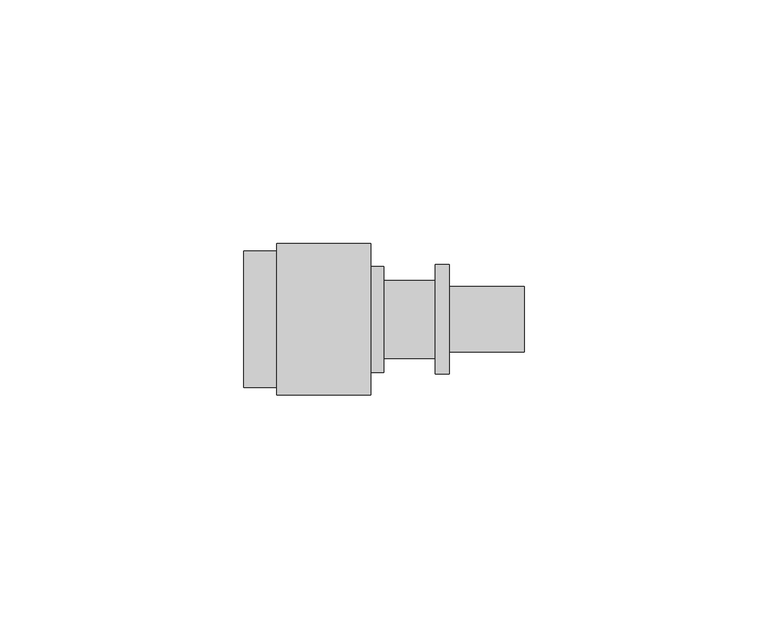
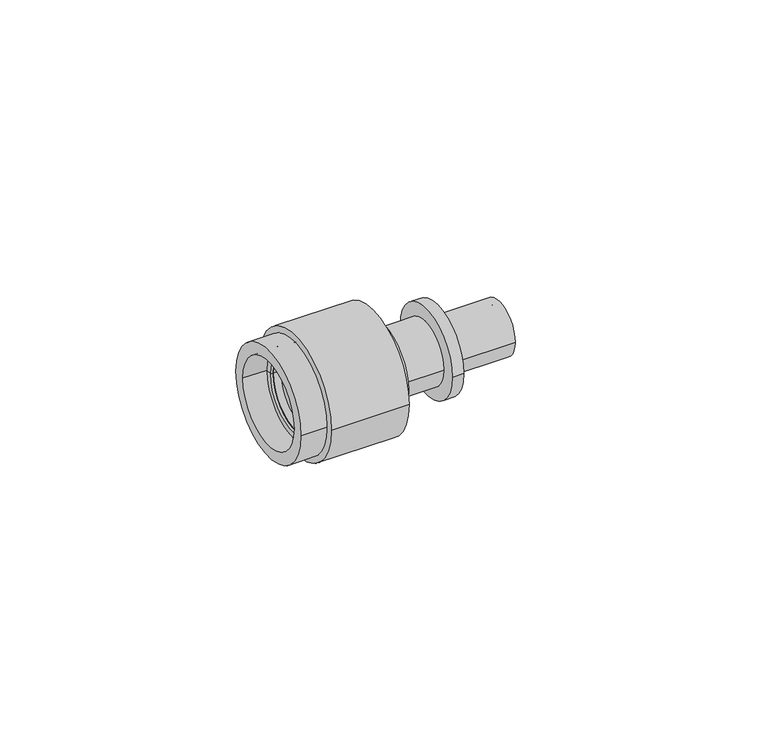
"""IFC4 building model written with IfcOpenShell, lengths in millimetres: pipe fitting geometry, REHAU_RAUTITAN_Adaptor RX+, MeplaFix : REHAU_RAUTITAN_Adaptor RX+, MeplaFix."""

from ifc_helpers import new_model, si_unit, point, frame, origin, origin_2d, place, context, project, spatial, polyline, circle_curve, trimmed, segment, composite_curve, outline, extrude, source, transform, mapped, element, save
from ifc_brep_helpers import plane_surface, cylinder_surface, revolved_surface, advanced_brep


def pipe_fitting_6872f2bf(model_context):
    return source(origin(), model_context, "Body", "SolidModel", [
        advanced_brep(
        [(-7.65, -15.5, 0.0), (-7.65, 15.5, 0.0), (-7.65, 12.7, 0.0), (-7.65, -12.7, 0.0), (-26.95, -15.5, 0.0), (-26.95, 15.5, 0.0), (-26.95, -9.3, 0.0), (-26.95, 9.3, 0.0), (-16.65, -12.7, 0.0), (-16.65, 12.7, 0.0), (-16.65, 10.5, 0.0), (-16.65, -10.5, 0.0), (-18.55, 10.5, 0.0), (-18.55, -10.5, 0.0), (-18.55, 8.7, 0.0), (-18.55, -8.7, 0.0), (-20.05, 8.7, 0.0), (-20.05, -8.7, 0.0), (-20.05, 10.7, 0.0), (-20.05, -10.7, 0.0), (-23.75, 10.7, 0.0), (-23.75, -10.7, 0.0), (-23.75, 9.3, 0.0), (-23.75, -9.3, 0.0)],
        [
            (0, 1, circle_curve(frame((-7.65, 0.0, 0.0), z_axis=(1.0, 0.0, 0.0), x_axis=(0.0, 1.0, 0.0)), 15.5)),
            (1, 0, circle_curve(frame((-7.65, 0.0, 0.0), z_axis=(1.0, 0.0, 0.0), x_axis=(0.0, 1.0, 0.0)), 15.5)),
            (2, 3, circle_curve(frame((-7.65, 0.0, 0.0), z_axis=(-1.0, 0.0, 0.0), x_axis=(0.0, 1.0, 0.0)), 12.7)),
            (3, 2, circle_curve(frame((-7.65, 0.0, 0.0), z_axis=(-1.0, 0.0, 0.0), x_axis=(0.0, 1.0, 0.0)), 12.7)),
            (4, 5, circle_curve(frame((-26.95, 0.0, 0.0), z_axis=(-1.0, 0.0, 0.0), x_axis=(0.0, 1.0, 0.0)), 15.5)),
            (5, 4, circle_curve(frame((-26.95, 0.0, 0.0), z_axis=(-1.0, 0.0, 0.0), x_axis=(0.0, 1.0, 0.0)), 15.5)),
            (6, 7, circle_curve(frame((-26.95, 0.0, 0.0), z_axis=(1.0, 0.0, 0.0), x_axis=(0.0, 1.0, 0.0)), 9.3)),
            (7, 6, circle_curve(frame((-26.95, 0.0, 0.0), z_axis=(1.0, 0.0, 0.0), x_axis=(0.0, 1.0, 0.0)), 9.3)),
            (0, 4),
            (5, 1),
            (8, 3),
            (2, 9),
            (9, 8, circle_curve(frame((-16.65, 0.0, 0.0), z_axis=(-1.0, 0.0, 0.0), x_axis=(0.0, 1.0, 0.0)), 12.7)),
            (8, 9, circle_curve(frame((-16.65, 0.0, 0.0), z_axis=(-1.0, 0.0, 0.0), x_axis=(0.0, 1.0, 0.0)), 12.7)),
            (9, 10),
            (10, 11, circle_curve(frame((-16.65, 0.0, 0.0), z_axis=(-1.0, 0.0, 0.0), x_axis=(0.0, 1.0, 0.0)), 10.5)),
            (11, 8),
            (11, 10, circle_curve(frame((-16.65, 0.0, 0.0), z_axis=(-1.0, 0.0, 0.0), x_axis=(0.0, 1.0, 0.0)), 10.5)),
            (10, 12),
            (12, 13, circle_curve(frame((-18.55, 0.0, 0.0), z_axis=(-1.0, 0.0, 0.0), x_axis=(0.0, 1.0, 0.0)), 10.5)),
            (13, 11),
            (13, 12, circle_curve(frame((-18.55, 0.0, 0.0), z_axis=(-1.0, 0.0, 0.0), x_axis=(0.0, 1.0, 0.0)), 10.5)),
            (12, 14),
            (14, 15, circle_curve(frame((-18.55, 0.0, 0.0), z_axis=(-1.0, 0.0, 0.0), x_axis=(0.0, 1.0, 0.0)), 8.7)),
            (15, 13),
            (15, 14, circle_curve(frame((-18.55, 0.0, 0.0), z_axis=(-1.0, 0.0, 0.0), x_axis=(0.0, 1.0, 0.0)), 8.7)),
            (14, 16),
            (16, 17, circle_curve(frame((-20.05, 0.0, 0.0), z_axis=(-1.0, 0.0, 0.0), x_axis=(0.0, 1.0, 0.0)), 8.7)),
            (17, 15),
            (17, 16, circle_curve(frame((-20.05, 0.0, 0.0), z_axis=(-1.0, 0.0, 0.0), x_axis=(0.0, 1.0, 0.0)), 8.7)),
            (16, 18),
            (18, 19, circle_curve(frame((-20.05, 0.0, 0.0), z_axis=(-1.0, 0.0, 0.0), x_axis=(0.0, 1.0, 0.0)), 10.7)),
            (19, 17),
            (19, 18, circle_curve(frame((-20.05, 0.0, 0.0), z_axis=(-1.0, 0.0, 0.0), x_axis=(0.0, 1.0, 0.0)), 10.7)),
            (18, 20),
            (20, 21, circle_curve(frame((-23.75, 0.0, 0.0), z_axis=(-1.0, 0.0, 0.0), x_axis=(0.0, 1.0, 0.0)), 10.7)),
            (21, 19),
            (21, 20, circle_curve(frame((-23.75, 0.0, 0.0), z_axis=(-1.0, 0.0, 0.0), x_axis=(0.0, 1.0, 0.0)), 10.7)),
            (20, 22),
            (22, 23, circle_curve(frame((-23.75, 0.0, 0.0), z_axis=(-1.0, 0.0, 0.0), x_axis=(0.0, 1.0, 0.0)), 9.3)),
            (23, 21),
            (23, 22, circle_curve(frame((-23.75, 0.0, 0.0), z_axis=(-1.0, 0.0, 0.0), x_axis=(0.0, 1.0, 0.0)), 9.3)),
            (22, 7),
            (6, 23),
        ],
        [
            plane_surface(frame((-7.65, 15.5, 0.0), z_axis=(1.0, 0.0, 0.0), x_axis=(0.0, 0.0, 1.0))),
            plane_surface(frame((-26.95, 15.5, 0.0), z_axis=(-1.0, 0.0, 0.0), x_axis=(0.0, 0.0, -1.0))),
            cylinder_surface(frame((-26.95, 0.0, 0.0), z_axis=(1.0, 0.0, 0.0), x_axis=(0.0, 1.0, 0.0)), 15.5),
            revolved_surface(polyline([(-16.65, 12.7, 0.0), (-7.65, 12.7, 0.0)]), (-7.65, 0.0, 0.0), (-1.0, 0.0, 0.0)),
            plane_surface(frame((-16.65, 0.0, 0.0), z_axis=(1.0, 0.0, 0.0), x_axis=(0.0, 1.0, 0.0))),
            revolved_surface(polyline([(-18.55, 10.5, 0.0), (-16.65, 10.5, 0.0)]), (-7.65, 0.0, 0.0), (-1.0, 0.0, 0.0)),
            plane_surface(frame((-18.55, 0.0, 0.0), z_axis=(1.0, 0.0, 0.0), x_axis=(0.0, 1.0, 0.0))),
            revolved_surface(polyline([(-20.05, 8.7, 0.0), (-18.55, 8.7, 0.0)]), (-7.65, 0.0, 0.0), (-1.0, 0.0, 0.0)),
            plane_surface(frame((-20.05, 0.0, 0.0), z_axis=(-1.0, 0.0, 0.0), x_axis=(0.0, 1.0, 0.0))),
            revolved_surface(polyline([(-23.75, 10.7, 0.0), (-20.05, 10.7, 0.0)]), (-7.65, 0.0, 0.0), (-1.0, 0.0, 0.0)),
            plane_surface(frame((-23.75, 0.0, 0.0), z_axis=(1.0, 0.0, 0.0), x_axis=(0.0, 1.0, 0.0))),
            revolved_surface(polyline([(-26.949999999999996, 9.3, 0.0), (-23.75, 9.3, 0.0)]), (-7.65, 0.0, 0.0), (-1.0, 0.0, 0.0)),
        ],
        [
            (0, [[1, 2], [3, 4]]),
            (1, [[5, 6], [7, 8]]),
            (2, [[-1, 9, -6, 10]]),
            (2, [[-2, -10, -5, -9]]),
            (3, [[11, -3, 12, 13]]),
            (3, [[-11, 14, -12, -4]]),
            (4, [[-13, 15, 16, 17]]),
            (4, [[-14, -17, 18, -15]]),
            (5, [[-16, 19, 20, 21]]),
            (5, [[-18, -21, 22, -19]]),
            (6, [[-20, 23, 24, 25]]),
            (6, [[-22, -25, 26, -23]]),
            (7, [[-24, 27, 28, 29]]),
            (7, [[-26, -29, 30, -27]]),
            (8, [[-28, 31, 32, 33]]),
            (8, [[-30, -33, 34, -31]]),
            (9, [[-32, 35, 36, 37]]),
            (9, [[-34, -37, 38, -35]]),
            (10, [[-36, 39, 40, 41]]),
            (10, [[-38, -41, 42, -39]]),
            (11, [[-40, 43, -7, 44]]),
            (11, [[-42, -44, -8, -43]]),
        ],
    ),
        advanced_brep(
        [(-26.95, -14.0, 0.0), (-26.95, 14.0, 0.0), (-26.95, 9.3, 0.0), (-26.95, -9.3, 0.0), (-33.65, -14.0, 0.0), (-33.65, 14.0, 0.0), (-33.65, -11.0, 0.0), (-33.65, 11.0, 0.0), (-27.75, -11.0, 0.0), (-27.75, 11.0, 0.0), (-27.75, 9.3, 0.0), (-27.75, -9.3, 0.0)],
        [
            (0, 1, circle_curve(frame((-26.95, 0.0, 0.0), z_axis=(1.0, 0.0, 0.0), x_axis=(0.0, 1.0, 0.0)), 14.0)),
            (1, 0, circle_curve(frame((-26.95, 0.0, 0.0), z_axis=(1.0, 0.0, 0.0), x_axis=(0.0, 1.0, 0.0)), 14.0)),
            (2, 3, circle_curve(frame((-26.95, 0.0, 0.0), z_axis=(-1.0, 0.0, 0.0), x_axis=(0.0, 1.0, 0.0)), 9.3)),
            (3, 2, circle_curve(frame((-26.95, 0.0, 0.0), z_axis=(-1.0, 0.0, 0.0), x_axis=(0.0, 1.0, 0.0)), 9.3)),
            (4, 5, circle_curve(frame((-33.65, 0.0, 0.0), z_axis=(-1.0, 0.0, 0.0), x_axis=(0.0, 1.0, 0.0)), 14.0)),
            (5, 4, circle_curve(frame((-33.65, 0.0, 0.0), z_axis=(-1.0, 0.0, 0.0), x_axis=(0.0, 1.0, 0.0)), 14.0)),
            (6, 7, circle_curve(frame((-33.65, 0.0, 0.0), z_axis=(1.0, 0.0, 0.0), x_axis=(0.0, 1.0, 0.0)), 11.0)),
            (7, 6, circle_curve(frame((-33.65, 0.0, 0.0), z_axis=(1.0, 0.0, 0.0), x_axis=(0.0, 1.0, 0.0)), 11.0)),
            (0, 4),
            (5, 1),
            (6, 8),
            (8, 9, circle_curve(frame((-27.75, 0.0, 0.0), z_axis=(1.0, 0.0, 0.0), x_axis=(0.0, 1.0, 0.0)), 11.0)),
            (9, 7),
            (9, 8, circle_curve(frame((-27.75, 0.0, 0.0), z_axis=(1.0, 0.0, 0.0), x_axis=(0.0, 1.0, 0.0)), 11.0)),
            (10, 11, circle_curve(frame((-27.75, 0.0, 0.0), z_axis=(-1.0, 0.0, 0.0), x_axis=(0.0, 1.0, 0.0)), 9.3)),
            (11, 3),
            (2, 10),
            (11, 10, circle_curve(frame((-27.75, 0.0, 0.0), z_axis=(-1.0, 0.0, 0.0), x_axis=(0.0, 1.0, 0.0)), 9.3)),
            (8, 11),
            (10, 9),
        ],
        [
            plane_surface(frame((-26.95, 14.0, 0.0), z_axis=(1.0, 0.0, 0.0), x_axis=(0.0, 0.0, 1.0))),
            plane_surface(frame((-33.65, 14.0, 0.0), z_axis=(-1.0, 0.0, 0.0), x_axis=(0.0, 0.0, -1.0))),
            cylinder_surface(frame((-33.65, 0.0, 0.0), z_axis=(1.0, 0.0, 0.0), x_axis=(0.0, 1.0, 0.0)), 14.0),
            revolved_surface(polyline([(-33.65, 11.0, 0.0), (-27.75, 11.0, 0.0)]), (-7.65, 0.0, 0.0), (-1.0, 0.0, 0.0)),
            revolved_surface(polyline([(-27.75, 9.3, 0.0), (-26.949999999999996, 9.3, 0.0)]), (-7.65, 0.0, 0.0), (-1.0, 0.0, 0.0)),
            plane_surface(frame((-27.75, 0.0, 0.0), z_axis=(-1.0, 0.0, 0.0), x_axis=(0.0, 1.0, 0.0))),
        ],
        [
            (0, [[1, 2], [3, 4]]),
            (1, [[5, 6], [7, 8]]),
            (2, [[-1, 9, -6, 10]]),
            (2, [[-2, -10, -5, -9]]),
            (3, [[11, 12, 13, -7]]),
            (3, [[-11, -8, -13, 14]]),
            (4, [[15, 16, -3, 17]]),
            (4, [[18, -17, -4, -16]]),
            (5, [[-12, 19, -15, 20]]),
            (5, [[-14, -20, -18, -19]]),
        ],
    ),
        extrude(outline(composite_curve([segment(trimmed(circle_curve(origin_2d(), 11.25), [point((-11.25, 0.0))], [point((11.25, 0.0))], False, "CARTESIAN"), True, "CONTINUOUS"), segment(trimmed(circle_curve(origin_2d(), 11.25), [point((11.25, 0.0))], [point((-11.25, 0.0))], False, "CARTESIAN"), True, "CONTINUOUS")], self_intersect=False)), frame((5.53, 0.0, 0.0), z_axis=(1.0, 0.0, 0.0), x_axis=(0.0, 1.0, 0.0)), (0.0, 0.0, 1.0), 2.87),
        extrude(outline(composite_curve([segment(trimmed(circle_curve(origin_2d(), 6.725), [point((-6.725, 0.0))], [point((6.725, 0.0))], False, "CARTESIAN"), True, "CONTINUOUS"), segment(trimmed(circle_curve(origin_2d(), 6.725), [point((6.725, 0.0))], [point((-6.725, 0.0))], False, "CARTESIAN"), True, "CONTINUOUS")], self_intersect=False), holes=[composite_curve([segment(trimmed(circle_curve(origin_2d(), 4.95), [point((-4.95, 0.0))], [point((4.95, 0.0))], True, "CARTESIAN"), True, "CONTINUOUS"), segment(trimmed(circle_curve(origin_2d(), 4.95), [point((4.95, 0.0))], [point((-4.95, 0.0))], True, "CARTESIAN"), True, "CONTINUOUS")], self_intersect=False)]), frame((8.4, 0.0, 0.0), z_axis=(1.0, 0.0, 0.0), x_axis=(0.0, 1.0, 0.0)), (0.0, 0.0, 1.0), 15.35),
        extrude(outline(composite_curve([segment(trimmed(circle_curve(origin_2d(), 8.0), [point((-8.0, 0.0))], [point((8.0, 0.0))], False, "CARTESIAN"), True, "CONTINUOUS"), segment(trimmed(circle_curve(origin_2d(), 8.0), [point((8.0, 0.0))], [point((-8.0, 0.0))], False, "CARTESIAN"), True, "CONTINUOUS")], self_intersect=False), holes=[composite_curve([segment(trimmed(circle_curve(origin_2d(), 4.95), [point((-4.95, 0.0))], [point((4.95, 0.0))], True, "CARTESIAN"), True, "CONTINUOUS"), segment(trimmed(circle_curve(origin_2d(), 4.95), [point((4.95, 0.0))], [point((-4.95, 0.0))], True, "CARTESIAN"), True, "CONTINUOUS")], self_intersect=False)]), frame((-5.05, 0.0, 0.0), z_axis=(1.0, 0.0, 0.0), x_axis=(0.0, 1.0, 0.0)), (0.0, 0.0, 1.0), 10.58),
        extrude(outline(composite_curve([segment(trimmed(circle_curve(origin_2d(), 10.85), [point((-10.85, 0.0))], [point((10.85, 0.0))], False, "CARTESIAN"), True, "CONTINUOUS"), segment(trimmed(circle_curve(origin_2d(), 10.85), [point((10.85, 0.0))], [point((-10.85, 0.0))], False, "CARTESIAN"), True, "CONTINUOUS")], self_intersect=False)), frame((-7.65, 0.0, 0.0), z_axis=(1.0, 0.0, 0.0), x_axis=(0.0, 1.0, 0.0)), (0.0, 0.0, 1.0), 2.6),
        extrude(outline(composite_curve([segment(trimmed(circle_curve(origin_2d(), 7.4), [point((-7.4, 0.0))], [point((7.4, 0.0))], False, "CARTESIAN"), True, "CONTINUOUS"), segment(trimmed(circle_curve(origin_2d(), 7.4), [point((7.4, 0.0))], [point((-7.4, 0.0))], False, "CARTESIAN"), True, "CONTINUOUS")], self_intersect=False)), frame((-16.63, 0.0, 0.0), z_axis=(1.0, 0.0, 0.0), x_axis=(0.0, 1.0, 0.0)), (0.0, 0.0, 1.0), 8.98),
        extrude(outline(composite_curve([segment(trimmed(circle_curve(origin_2d(), 6.35), [point((-6.35, 0.0))], [point((6.35, 0.0))], False, "CARTESIAN"), True, "CONTINUOUS"), segment(trimmed(circle_curve(origin_2d(), 6.35), [point((6.35, 0.0))], [point((-6.35, 0.0))], False, "CARTESIAN"), True, "CONTINUOUS")], self_intersect=False)), frame((-18.6, 0.0, 0.0), z_axis=(1.0, 0.0, 0.0), x_axis=(0.0, 1.0, 0.0)), (0.0, 0.0, 1.0), 1.97),
        extrude(outline(composite_curve([segment(trimmed(circle_curve(origin_2d(), 7.4), [point((-7.4, 0.0))], [point((7.4, 0.0))], False, "CARTESIAN"), True, "CONTINUOUS"), segment(trimmed(circle_curve(origin_2d(), 7.4), [point((7.4, 0.0))], [point((-7.4, 0.0))], False, "CARTESIAN"), True, "CONTINUOUS")], self_intersect=False)), frame((-26.05, 0.0, 0.0), z_axis=(1.0, 0.0, 0.0), x_axis=(0.0, 1.0, 0.0)), (0.0, 0.0, 1.0), 7.45),
    ])


if __name__ == "__main__":
    model = new_model("IFC4")
    model_context = context("Model", 3, world=origin())
    ifc_project = project(units=[si_unit("LENGTHUNIT", "METRE", prefix="MILLI")], contexts=[model_context])
    site = spatial("IfcSite", under=ifc_project)
    building = spatial("IfcBuilding", under=site)
    placement = place(None, origin())
    pipe_fitting_shape = pipe_fitting_6872f2bf(model_context)
    element("IfcPipeFitting", 1, ObjectType="REHAU_RAUTITAN_Adaptor RX+, MeplaFix : REHAU_RAUTITAN_Adaptor RX+, MeplaFix", at=placement, inside=building, context=model_context, shape_type="MappedRepresentation", body=[
        mapped(pipe_fitting_shape, transform((0.0, 0.0, 0.0), x_axis=(1.0, 0.0, 0.0), y_axis=(0.0, 1.0, 0.0), z_axis=(0.0, 0.0, 1.0))),
    ])
    save(model, "model.ifc")
